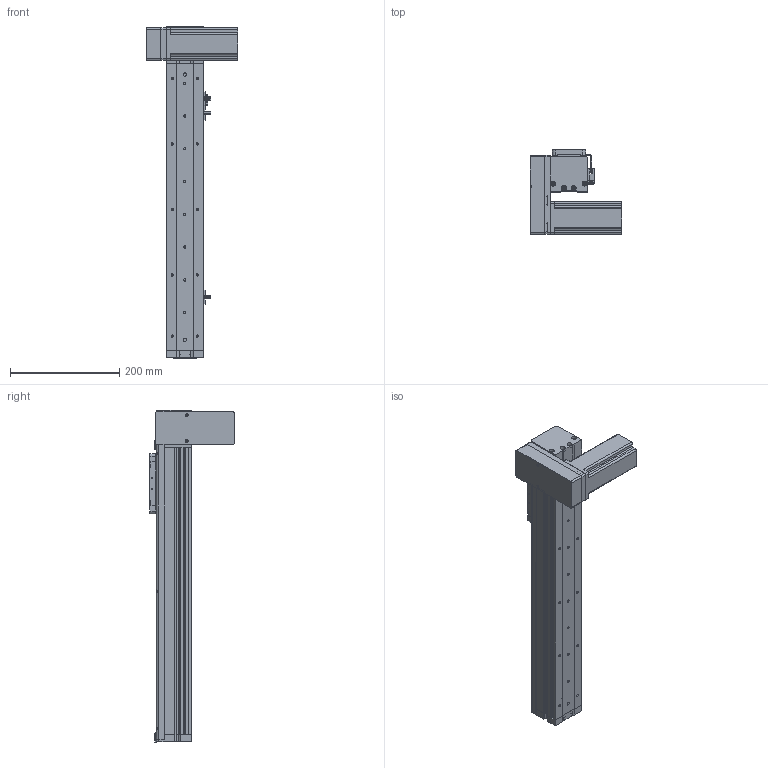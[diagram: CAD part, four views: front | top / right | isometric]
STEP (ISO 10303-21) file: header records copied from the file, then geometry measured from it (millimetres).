
FILE_DESCRIPTION (( 'STEP AP214' ), '1' );
FILE_NAME ('KSD68BS-S350-MRD-CR.STEP', '2019-11-08T02:46:44', ( '微软用户' ), ( '微软中国' ), 'SwSTEP 2.0', 'SolidWorks 2014', '' );
FILE_SCHEMA (( 'AUTOMOTIVE_DESIGN' ));
Length unit declared in the file: millimetre
Products named in the file (14): 68宽单导轨全封闭丝杆传动安装板1防护罩; KSD68BS 350行程侧板全封闭; 68宽单导轨全封闭同步带端板; 68单导轨全封闭同步带电机座右; 68单导轨全封闭同步带安装板; 悵誘欶奻狟殏; 68宽马达安装板连板上折同步带; 感应片68宽全封闭; U倰嫖萇EEㄜSX672; 68遵裔啣揤啣1; 台达ECMA－C20604AS伺服电机（400W); KSD68BS 350行程底板全封闭; KSD68BS-S350-MRD-CR; KSD68BS 350行程盖板全封闭
Assembly tree (17 placements, depth 2):
  KSD68BS-S350-MRD-CR
    KSD68BS 350行程底板全封闭
    台达ECMA－C20604AS伺服电机（400W)
    U倰嫖萇EEㄜSX672  x3
    感应片68宽全封闭
    68宽马达安装板连板上折同步带
    悵誘欶奻狟殏
    68单导轨全封闭同步带安装板
    68单导轨全封闭同步带电机座右
    68宽单导轨全封闭同步带端板
    KSD68BS 350行程侧板全封闭  x2
    68宽单导轨全封闭丝杆传动安装板1防护罩
    68遵裔啣揤啣1  x2
    KSD68BS 350行程盖板全封闭
Bounding box: 167.2 x 155.5 x 608.1 mm (x, y, z)
Volume: 1662081.3 mm3; surface area: 558445.9 mm2
Topology: 18 solids, 18 shells, 1372 faces, 3857 edges, 2481 vertices
Faces by surface type: plane 623, cylinder 617, cone 132
Entity records: 42338 total; most frequent: CARTESIAN_POINT 7067, DIRECTION 6421, ORIENTED_EDGE 6150, EDGE_CURVE 3075, AXIS2_PLACEMENT_3D 2281, VERTEX_POINT 2019, VECTOR 1859, LINE 1859
